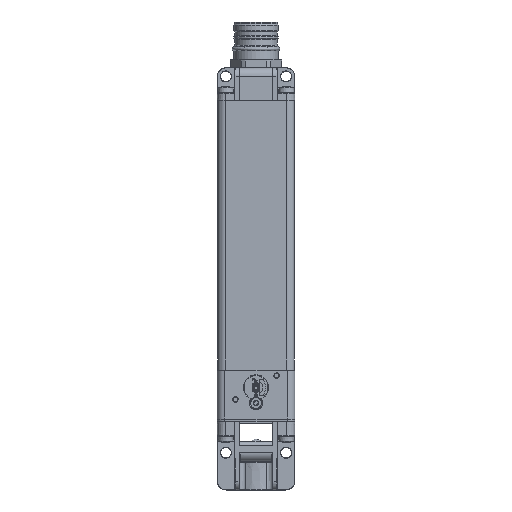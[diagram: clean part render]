
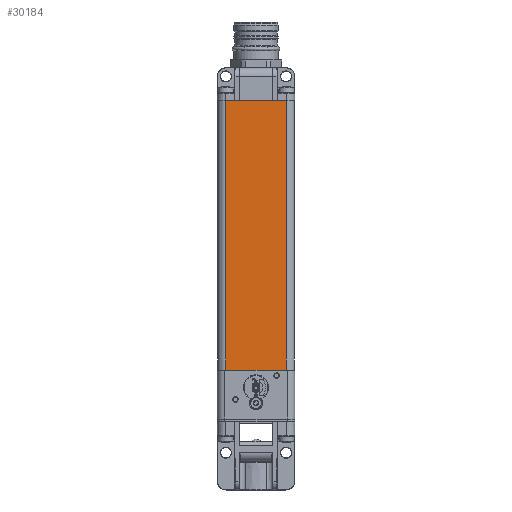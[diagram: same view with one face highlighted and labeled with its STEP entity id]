
A CAD part, front view. The second image highlights one B-rep face of the part: STEP entity #30184.
In plain terms, the highlighted planar face has unit normal (0, -1, 0).
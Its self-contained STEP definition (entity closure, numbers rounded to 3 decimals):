
#717=PLANE('',#32224);
#1859=LINE('',#45771,#3552);
#1860=LINE('',#45773,#3553);
#1861=LINE('',#45775,#3554);
#1862=LINE('',#45776,#3555);
#3552=VECTOR('',#36020,10.);
#3553=VECTOR('',#36021,10.);
#3554=VECTOR('',#36022,10.);
#3555=VECTOR('',#36023,10.);
#5492=FACE_OUTER_BOUND('',#7432,.T.);
#7432=EDGE_LOOP('',(#20436,#20437,#20438,#20439));
#12456=VERTEX_POINT('',#45769);
#12457=VERTEX_POINT('',#45770);
#12458=VERTEX_POINT('',#45772);
#12459=VERTEX_POINT('',#45774);
#15497=EDGE_CURVE('',#12456,#12457,#1859,.T.);
#15498=EDGE_CURVE('',#12458,#12456,#1860,.T.);
#15499=EDGE_CURVE('',#12459,#12458,#1861,.T.);
#15500=EDGE_CURVE('',#12457,#12459,#1862,.T.);
#20436=ORIENTED_EDGE('',*,*,#15497,.F.);
#20437=ORIENTED_EDGE('',*,*,#15498,.F.);
#20438=ORIENTED_EDGE('',*,*,#15499,.F.);
#20439=ORIENTED_EDGE('',*,*,#15500,.F.);
#30184=ADVANCED_FACE('',(#5492),#717,.T.);
#32224=AXIS2_PLACEMENT_3D('',#45768,#36018,#36019);
#36018=DIRECTION('center_axis',(0.,-1.,0.));
#36019=DIRECTION('ref_axis',(1.,0.,0.));
#36020=DIRECTION('',(0.,0.,1.));
#36021=DIRECTION('',(-1.,0.,0.));
#36022=DIRECTION('',(0.,0.,-1.));
#36023=DIRECTION('',(1.,0.,0.));
#45768=CARTESIAN_POINT('Origin',(-19.75,-19.75,83.35));
#45769=CARTESIAN_POINT('',(-15.6,-19.75,13.95));
#45770=CARTESIAN_POINT('',(-15.6,-19.75,152.75));
#45771=CARTESIAN_POINT('',(-15.6,-19.75,83.35));
#45772=CARTESIAN_POINT('',(15.6,-19.75,13.95));
#45773=CARTESIAN_POINT('',(-9.875,-19.75,13.95));
#45774=CARTESIAN_POINT('',(15.6,-19.75,152.75));
#45775=CARTESIAN_POINT('',(15.6,-19.75,83.35));
#45776=CARTESIAN_POINT('',(-9.875,-19.75,152.75));
